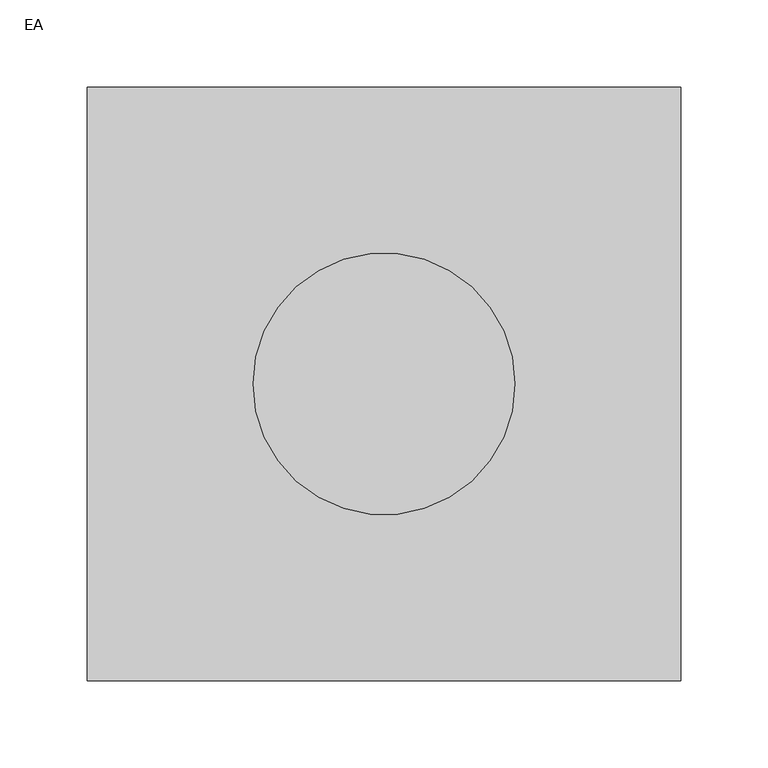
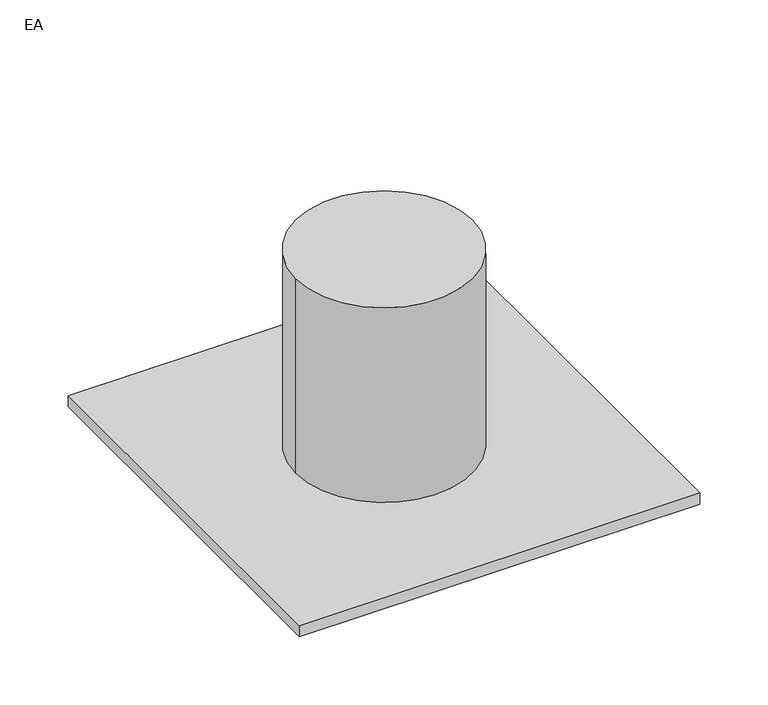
"""IFC4 building model written with IfcOpenShell, lengths in millimetres: air terminal geometry, 031_シーリングディフューザー : EA."""

from ifc_helpers import new_model, si_unit, point, frame, origin, origin_with_axes, origin_2d, place, context, project, spatial, polyline, circle_curve, trimmed, segment, composite_curve, outline, extrude, source, transform, mapped, element, save


def ea_b565a27f(model_context):
    return source(origin(), model_context, "Body", "SweptSolid", [
        extrude(outline(polyline([(170.0, 170.0), (170.0, -170.0), (-170.0, -170.0), (-170.0, 170.0), (170.0, 170.0)])), frame((0.0, 0.0, -10.0), z_axis=(0.0, 0.0, 1.0), x_axis=(1.0, 0.0, 0.0)), (0.0, 0.0, 1.0), 10.0),
        extrude(outline(composite_curve([segment(trimmed(circle_curve(origin_2d(), 75.0), [point((-75.0, 0.0))], [point((75.0, 0.0))], False, "CARTESIAN"), True, "CONTINUOUS"), segment(trimmed(circle_curve(origin_2d(), 75.0), [point((75.0, 0.0))], [point((-75.0, 0.0))], False, "CARTESIAN"), True, "CONTINUOUS")], self_intersect=False)), origin_with_axes(), (0.0, 0.0, 1.0), 175.0),
    ])


if __name__ == "__main__":
    model = new_model("IFC4")
    model_context = context("Model", 3, world=origin())
    ifc_project = project(units=[si_unit("LENGTHUNIT", "METRE", prefix="MILLI")], contexts=[model_context])
    site = spatial("IfcSite", under=ifc_project)
    building = spatial("IfcBuilding", under=site)
    placement = place(None, origin())
    ea_shape = ea_b565a27f(model_context)
    element("IfcAirTerminal", 1, ObjectType="031_シーリングディフューザー : EA", at=placement, inside=building, context=model_context, shape_type="MappedRepresentation", body=[
        mapped(ea_shape, transform((0.0, 0.0, 0.0), x_axis=(1.0, 0.0, 0.0), y_axis=(0.0, 1.0, 0.0), z_axis=(0.0, 0.0, 1.0))),
    ])
    save(model, "model.ifc")
